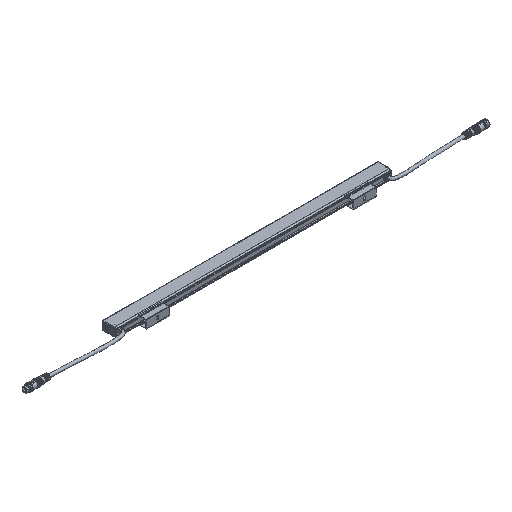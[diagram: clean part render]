
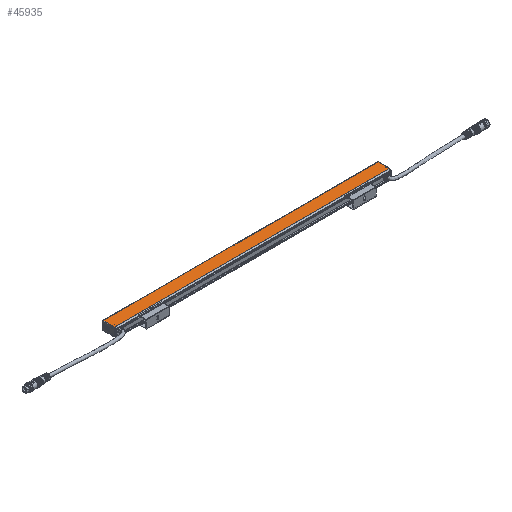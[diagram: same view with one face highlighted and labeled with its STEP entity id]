
A CAD part, isometric view. The second image highlights one B-rep face of the part: STEP entity #45935.
In plain terms, the highlighted planar face has unit normal (0, 0, 1).
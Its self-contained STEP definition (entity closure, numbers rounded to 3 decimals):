
#1492 = EDGE_CURVE ( 'NONE', #9626, #13578, #38238, .T. ) ;
#2618 = VERTEX_POINT ( 'NONE', #31083 ) ;
#4110 = DIRECTION ( 'NONE',  ( 1., 0., 0. ) ) ;
#5975 = VECTOR ( 'NONE', #8097, 1000. ) ;
#7047 = VECTOR ( 'NONE', #4110, 1000. ) ;
#7156 = CARTESIAN_POINT ( 'NONE',  ( 299.5, 20.786, 9.15 ) ) ;
#8097 = DIRECTION ( 'NONE',  ( 0., 1., 0. ) ) ;
#9626 = VERTEX_POINT ( 'NONE', #7156 ) ;
#13578 = VERTEX_POINT ( 'NONE', #46403 ) ;
#14790 = VECTOR ( 'NONE', #24218, 1000. ) ;
#16076 = CARTESIAN_POINT ( 'NONE',  ( -299.5, 0., 9.15 ) ) ;
#16427 = CARTESIAN_POINT ( 'NONE',  ( -148., 45.5, 9.15 ) ) ;
#16551 = DIRECTION ( 'NONE',  ( -1., 0., 0. ) ) ;
#17176 = LINE ( 'NONE', #56460, #5975 ) ;
#17477 = ORIENTED_EDGE ( 'NONE', *, *, #45514, .T. ) ;
#18769 = EDGE_CURVE ( 'NONE', #44814, #13578, #46811, .T. ) ;
#19270 = LINE ( 'NONE', #47031, #14790 ) ;
#21596 = ORIENTED_EDGE ( 'NONE', *, *, #18769, .T. ) ;
#23707 = LINE ( 'NONE', #32760, #41375 ) ;
#23950 = VERTEX_POINT ( 'NONE', #24432 ) ;
#24218 = DIRECTION ( 'NONE',  ( -1., 0., 0. ) ) ;
#24432 = CARTESIAN_POINT ( 'NONE',  ( 299.5, 45.5, 9.15 ) ) ;
#25389 = VECTOR ( 'NONE', #16551, 1000. ) ;
#25880 = CARTESIAN_POINT ( 'NONE',  ( 298., 20.786, 9.15 ) ) ;
#27942 = EDGE_CURVE ( 'NONE', #9626, #23950, #17176, .T. ) ;
#29237 = DIRECTION ( 'NONE',  ( 0., -1., 0. ) ) ;
#31083 = CARTESIAN_POINT ( 'NONE',  ( -148., 45.5, 9.15 ) ) ;
#32322 = FACE_OUTER_BOUND ( 'NONE', #43322, .T. ) ;
#32600 = DIRECTION ( 'NONE',  ( 0., 1., 0. ) ) ;
#32698 = ORIENTED_EDGE ( 'NONE', *, *, #34247, .F. ) ;
#32760 = CARTESIAN_POINT ( 'NONE',  ( 298., 45.5, 9.15 ) ) ;
#34247 = EDGE_CURVE ( 'NONE', #2618, #57909, #52140, .T. ) ;
#34479 = VECTOR ( 'NONE', #29237, 1000. ) ;
#37019 = ORIENTED_EDGE ( 'NONE', *, *, #1492, .F. ) ;
#38238 = LINE ( 'NONE', #25880, #25389 ) ;
#40251 = CARTESIAN_POINT ( 'NONE',  ( 298., 0., 9.15 ) ) ;
#40981 = DIRECTION ( 'NONE',  ( -1., 0., 0. ) ) ;
#41375 = VECTOR ( 'NONE', #40981, 1000. ) ;
#42027 = ORIENTED_EDGE ( 'NONE', *, *, #54177, .T. ) ;
#43322 = EDGE_LOOP ( 'NONE', ( #32698, #17477, #21596, #37019, #50328, #42027 ) ) ;
#44814 = VERTEX_POINT ( 'NONE', #57605 ) ;
#45514 = EDGE_CURVE ( 'NONE', #2618, #44814, #23707, .T. ) ;
#45935 = ADVANCED_FACE ( 'NONE', ( #32322 ), #50220, .F. ) ;
#46403 = CARTESIAN_POINT ( 'NONE',  ( -299.5, 20.786, 9.15 ) ) ;
#46811 = LINE ( 'NONE', #16076, #34479 ) ;
#47031 = CARTESIAN_POINT ( 'NONE',  ( 298., 45.5, 9.15 ) ) ;
#50220 = PLANE ( 'NONE',  #50820 ) ;
#50328 = ORIENTED_EDGE ( 'NONE', *, *, #27942, .T. ) ;
#50820 = AXIS2_PLACEMENT_3D ( 'NONE', #40251, #54891, #32600 ) ;
#51017 = CARTESIAN_POINT ( 'NONE',  ( 148., 45.5, 9.15 ) ) ;
#52140 = LINE ( 'NONE', #16427, #7047 ) ;
#54177 = EDGE_CURVE ( 'NONE', #23950, #57909, #19270, .T. ) ;
#54891 = DIRECTION ( 'NONE',  ( 0., 0., -1. ) ) ;
#56460 = CARTESIAN_POINT ( 'NONE',  ( 299.5, 50.842, 9.15 ) ) ;
#57605 = CARTESIAN_POINT ( 'NONE',  ( -299.5, 45.5, 9.15 ) ) ;
#57909 = VERTEX_POINT ( 'NONE', #51017 ) ;
